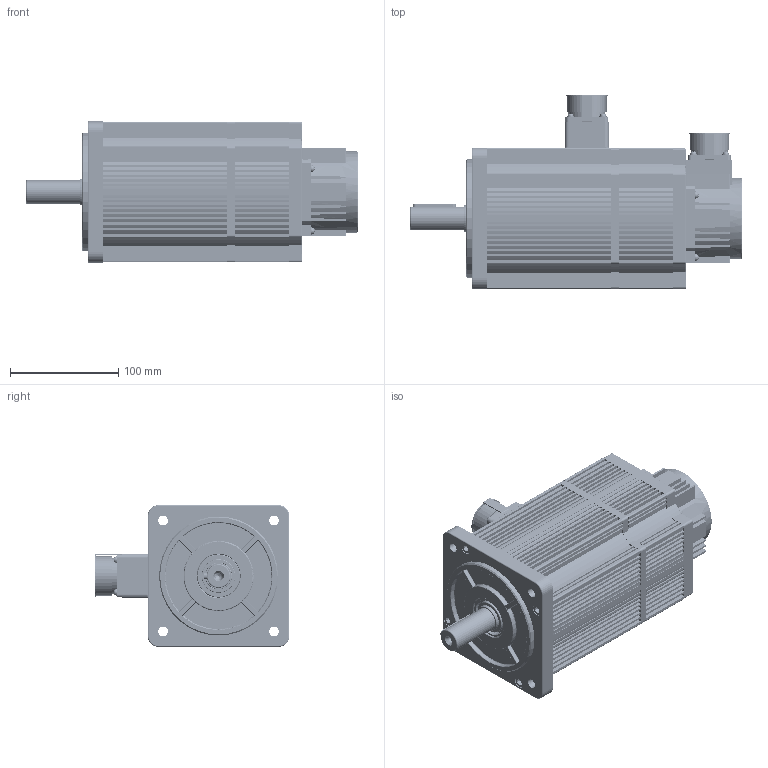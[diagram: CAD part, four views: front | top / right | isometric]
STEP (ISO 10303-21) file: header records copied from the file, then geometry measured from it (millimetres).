
FILE_DESCRIPTION (( 'STEP AP203' ), '1' );
FILE_NAME ('K1-130蚾饜7.7Nm 惕掅.STEP', '2019-12-23T08:14:08', ( 'gs' ), ( 'Microsoft' ), 'SwSTEP 2.0', 'SolidWorks 2019', '' );
FILE_SCHEMA (( 'CONFIG_CONTROL_DESIGN' ));
Length unit declared in the file: millimetre
Products named in the file (29): M6X20; K1-130 O型密封圈变形后; K1-130蛌赽郪璃7.7Nm 惕掅; K1-130密封圈; K1-130盄簽砎蝶菜; 6305; M6X70; K1-130誘欶躇猾菜; K1-130瑤脣15郋; M4X16啋儂; K1-130す瑩; K1-130儂褲樓馱綴7.7Nm 2500Rpm; curved single coil spring lock washers gb_GB_FASTENER_WASHER_CSLW 4; M3X12啋儂; K1-130瑤脣雄薯盄; K1-130隅赽郪璃7.7Nm 2500Rpm; K1-130蚾饜7.7Nm 惕掅; M3X8囀鞠褒; K1-130瑤脣砎蝶菜; K1-130机壳加工后 抱闸 7.7Nm以下; K1-130ヶ傷裔 譙跡; M3す菜; K1-130諉盄釱; K1-130綴傷裔 陬諾; K1-130綴傷裔 惕掅( 7.7Nm眕狟); M6粟菜; M3X8啋儂; K1-130粣 惕掅(7.7Nm); K1-110晤鎢ん誘欶
Assembly tree (82 placements, depth 3):
  K1-130蚾饜7.7Nm 惕掅
    K1-130隅赽郪璃7.7Nm 2500Rpm
      K1-130儂褲樓馱綴7.7Nm 2500Rpm
    K1-130ヶ傷裔 譙跡
    K1-130綴傷裔 惕掅( 7.7Nm眕狟)
    K1-110晤鎢ん誘欶
    K1-130密封圈
    K1-130誘欶躇猾菜
    curved single coil spring lock washers gb_GB_FASTENER_WASHER_CSLW 4  x17
    M3X8囀鞠褒
    M3す菜  x13
    M6粟菜  x7
    M6X20  x4
    K1-130盄簽砎蝶菜  x2
    K1-130瑤脣15郋
    M3X12啋儂  x8
    K1-130瑤脣砎蝶菜
    K1-130諉盄釱
    M3X8啋儂  x4
    K1-130 O型密封圈变形后  x2
    6305
    M4X16啋儂  x4
    K1-130瑤脣雄薯盄
    K1-130机壳加工后 抱闸 7.7Nm以下
    K1-130綴傷裔 陬諾
    K1-130蛌赽郪璃7.7Nm 惕掅
      K1-130粣 惕掅(7.7Nm)
    M6X70  x3
    K1-130す瑩
Bounding box: 307 x 180.1 x 131 mm (x, y, z)
Volume: 1178628.4 mm3; surface area: 573399.5 mm2
Topology: 82 solids, 84 shells, 4192 faces, 11347 edges, 7464 vertices
Faces by surface type: cylinder 2414, plane 1447, bspline 163, cone 88, torus 80
Entity records: 144709 total; most frequent: CARTESIAN_POINT 74918, ORIENTED_EDGE 14884, DIRECTION 12473, EDGE_CURVE 7442, VERTEX_POINT 4886, AXIS2_PLACEMENT_3D 4276, VECTOR 3921, LINE 3921
